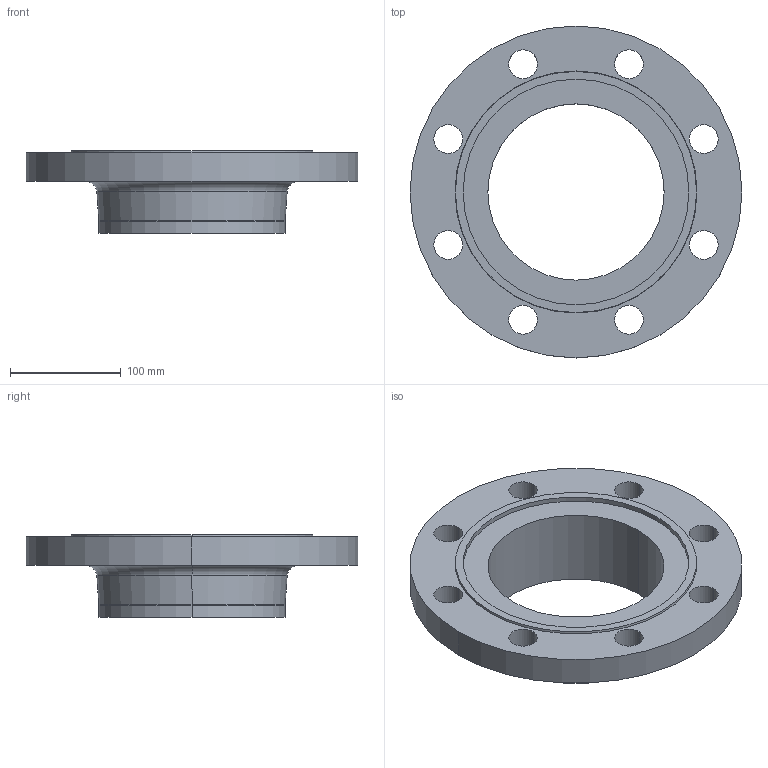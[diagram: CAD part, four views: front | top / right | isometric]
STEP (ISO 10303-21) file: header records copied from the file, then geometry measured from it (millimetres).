
FILE_DESCRIPTION (( 'STEP AP214' ), '1' );
FILE_NAME ('PN40 DN150 Type 11 - Type F Face.STEP', '2019-01-05T00:10:27', ( '' ), ( '' ), 'SwSTEP 2.0', 'SolidWorks 2019', '' );
FILE_SCHEMA (( 'AUTOMOTIVE_DESIGN' ));
Length unit declared in the file: millimetre
Products named in the file (1): PN40 DN150 Type 11 - Type F Face
Bounding box: 300 x 300 x 75 mm (x, y, z)
Volume: 1329774.8 mm3; surface area: 195710.7 mm2
Topology: 1 solids, 1 shells, 37 faces, 90 edges, 58 vertices
Faces by surface type: cylinder 24, plane 5, torus 4, cone 4
Entity records: 1188 total; most frequent: DIRECTION 228, CARTESIAN_POINT 186, ORIENTED_EDGE 180, AXIS2_PLACEMENT_3D 100, EDGE_CURVE 90, CIRCLE 62, EDGE_LOOP 58, VERTEX_POINT 58
